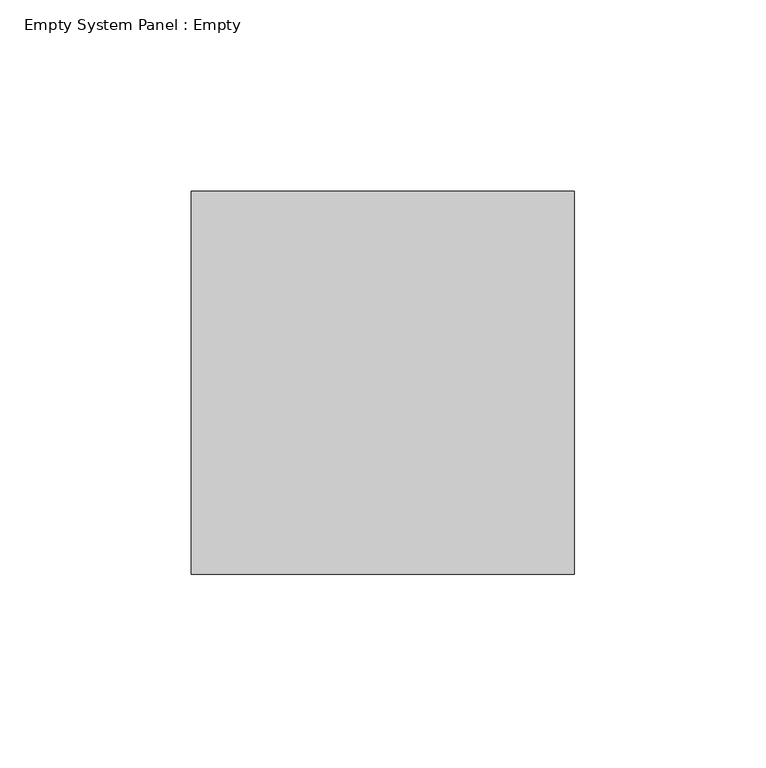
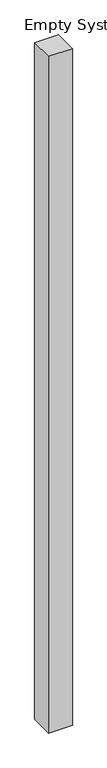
"""IFC4 building model written with IfcOpenShell, lengths in millimetres: plate geometry, Empty System Panel : Empty."""

from ifc_helpers import new_model, si_unit, origin, origin_with_axes, place, context, project, spatial, polyline, outline, extrude, source, transform, mapped, element, save


def empty_system_panel_empty_23ba90fe(model_context):
    return source(origin(), model_context, "Body", "SweptSolid", [
        extrude(outline(polyline([(50.0, 50.0), (-50.0, 50.0), (-50.0, 150.0), (50.0, 150.0), (50.0, 50.0)])), origin_with_axes(), (0.0, 0.0, 1.0), 3000.0),
    ])


if __name__ == "__main__":
    model = new_model("IFC4")
    model_context = context("Model", 3, world=origin())
    ifc_project = project(units=[si_unit("LENGTHUNIT", "METRE", prefix="MILLI")], contexts=[model_context])
    site = spatial("IfcSite", under=ifc_project)
    building = spatial("IfcBuilding", under=site)
    placement = place(None, origin())
    empty_system_panel_empty_shape = empty_system_panel_empty_23ba90fe(model_context)
    element("IfcPlate", 1, ObjectType="Empty System Panel : Empty", at=placement, inside=building, context=model_context, shape_type="MappedRepresentation", body=[
        mapped(empty_system_panel_empty_shape, transform((0.0, 0.0, 0.0), x_axis=(1.0, 0.0, 0.0), y_axis=(0.0, 1.0, 0.0), z_axis=(0.0, 0.0, 1.0))),
    ])
    save(model, "model.ifc")
